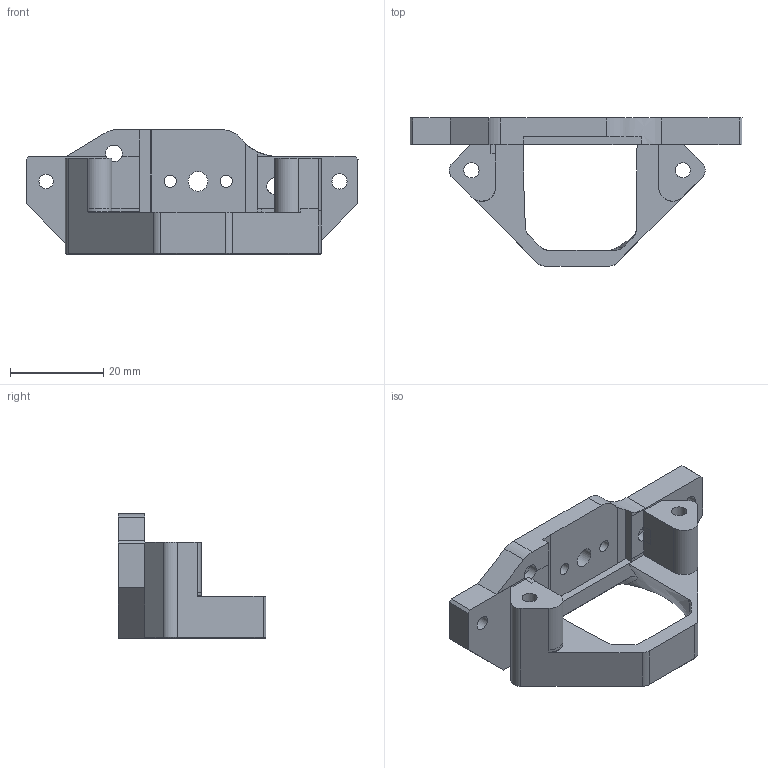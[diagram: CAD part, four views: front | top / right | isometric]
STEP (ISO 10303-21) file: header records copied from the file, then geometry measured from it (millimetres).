
FILE_DESCRIPTION(/* description */ (''),/* implementation_level */ '2;1');
FILE_NAME(/* name */ 'mount-orbiter-1.5-mosquito-2.1.step',/* time_stamp */ '2023-01-19T19:05:45+01:00',/* author */ (''),/* organization */ (''),/* preprocessor_version */ 'ST-DEVELOPER v19.2',/* originating_system */ 'Autodesk Translation Framework v11.17.0.187',/* authorisation */ '');
FILE_SCHEMA (('AUTOMOTIVE_DESIGN { 1 0 10303 214 3 1 1 }'));
Length unit declared in the file: millimetre
Products named in the file (1): mount-orbiter-1.5-mosquito-2.1
Bounding box: 71.07 x 31.68 x 26.66 mm (x, y, z)
Volume: 12553.7 mm3; surface area: 7403.9 mm2
Topology: 1 solids, 1 shells, 104 faces, 302 edges, 199 vertices
Faces by surface type: plane 55, cylinder 24, bspline 13, cone 12
Full cylindrical faces by diameter (mm): 2.6 x2, 3.1 x1, 3.25 x4, 3.6 x2, 4.2 x1, 4.6 x2
Entity records: 4316 total; most frequent: CARTESIAN_POINT 1538, ORIENTED_EDGE 604, DIRECTION 521, EDGE_CURVE 302, VERTEX_POINT 199, LINE 183, VECTOR 183, AXIS2_PLACEMENT_3D 169
